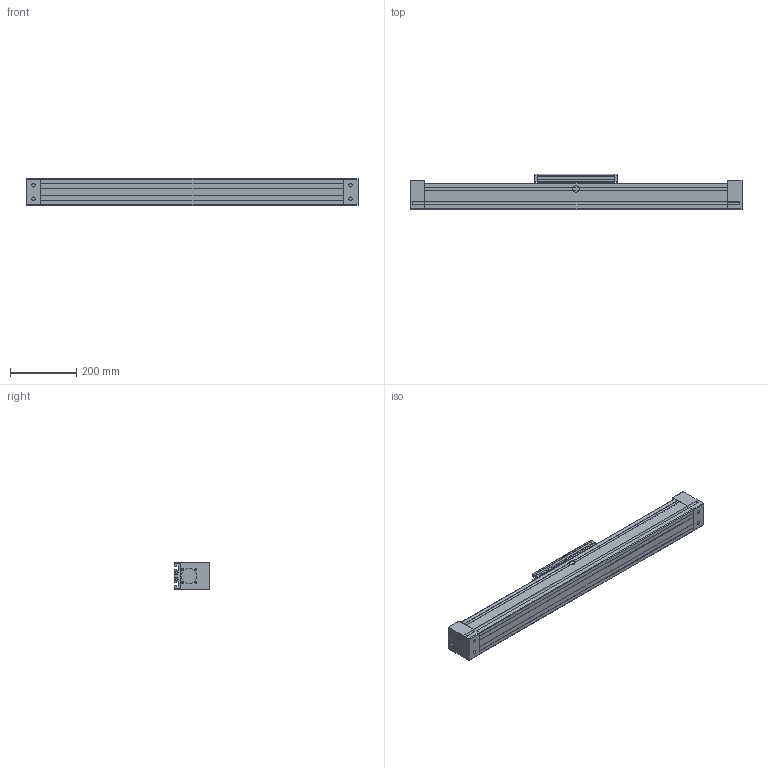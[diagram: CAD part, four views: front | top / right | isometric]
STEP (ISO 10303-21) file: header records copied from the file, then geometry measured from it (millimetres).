
FILE_DESCRIPTION (( 'STEP AP214' ), '1' );
FILE_NAME ('QSSR-80.STEP', '2016-01-08T13:39:41', ( 'admin' ), ( '' ), 'SwSTEP 2.0', 'SolidWorks 2015', '' );
FILE_SCHEMA (( 'AUTOMOTIVE_DESIGN' ));
Length unit declared in the file: millimetre
Products named in the file (5): Kopie von Bahr-Qssr-QSSR-80  1  0  0 0 0 0 0  850_End Block QSSR (2)^QSSR80 S0_QSSR 80-1; Kopie von Bahr-Qssr-QSSR-80  1  0  0 0 0 0 0  850_80 Extrusion^QSSR80 S0; Kopie von Bahr-Qssr-QSSR-80  1  0  0 0 0 0 0  850_80 Carriage^QSSR80 S0_0; Kopie von Bahr-Qssr-QSSR-80  1  0  0 0 0 0 0  850_End Block QSSR (1)^QSSR80 S0_QSSR 80-1; QSSR-80
Assembly tree (4 placements, depth 2):
  QSSR-80
    Kopie von Bahr-Qssr-QSSR-80  1  0  0 0 0 0 0  850_End Block QSSR (1)^QSSR80 S0_QSSR 80-1
    Kopie von Bahr-Qssr-QSSR-80  1  0  0 0 0 0 0  850_80 Carriage^QSSR80 S0_0
    Kopie von Bahr-Qssr-QSSR-80  1  0  0 0 0 0 0  850_80 Extrusion^QSSR80 S0
    Kopie von Bahr-Qssr-QSSR-80  1  0  0 0 0 0 0  850_End Block QSSR (2)^QSSR80 S0_QSSR 80-1
Bounding box: 1000 x 106 x 80.2 mm (x, y, z)
Volume: 6562248.9 mm3; surface area: 505812.1 mm2
Topology: 8 solids, 8 shells, 299 faces, 759 edges, 498 vertices
Faces by surface type: plane 188, cylinder 95, cone 8, torus 8
Entity records: 9308 total; most frequent: CARTESIAN_POINT 1599, DIRECTION 1577, ORIENTED_EDGE 1518, EDGE_CURVE 759, VECTOR 545, LINE 545, AXIS2_PLACEMENT_3D 516, VERTEX_POINT 498
